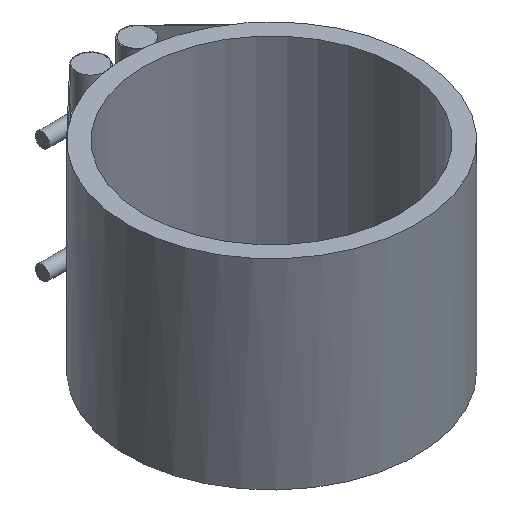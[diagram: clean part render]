
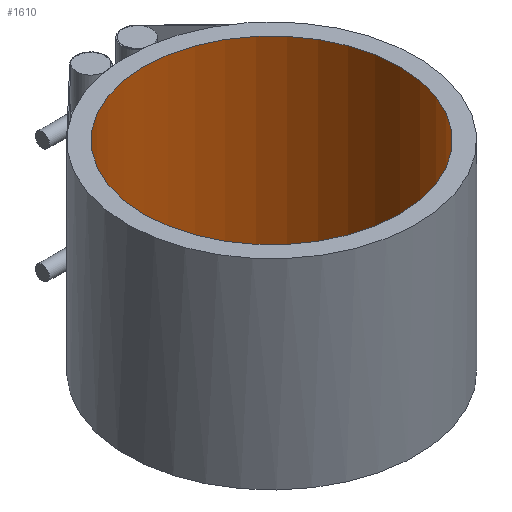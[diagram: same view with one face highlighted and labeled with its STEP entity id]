
A CAD part, isometric view. The second image highlights one B-rep face of the part: STEP entity #1610.
In plain terms, the highlighted cylindrical face has radius 90 mm (diameter 180 mm), a full revolution.
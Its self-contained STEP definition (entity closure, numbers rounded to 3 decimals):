
#364=CYLINDRICAL_SURFACE('',#1752,90.);
#418=FACE_BOUND('',#594,.T.);
#466=FACE_OUTER_BOUND('',#593,.T.);
#593=EDGE_LOOP('',(#1313));
#594=EDGE_LOOP('',(#1314));
#691=CIRCLE('',#1753,90.);
#692=CIRCLE('',#1754,90.);
#831=VERTEX_POINT('',#2856);
#832=VERTEX_POINT('',#2858);
#1007=EDGE_CURVE('',#831,#831,#691,.T.);
#1008=EDGE_CURVE('',#832,#832,#692,.T.);
#1313=ORIENTED_EDGE('',*,*,#1007,.F.);
#1314=ORIENTED_EDGE('',*,*,#1008,.F.);
#1610=ADVANCED_FACE('',(#466,#418),#364,.F.);
#1752=AXIS2_PLACEMENT_3D('',#2855,#2089,#2090);
#1753=AXIS2_PLACEMENT_3D('',#2857,#2091,#2092);
#1754=AXIS2_PLACEMENT_3D('',#2859,#2093,#2094);
#2089=DIRECTION('center_axis',(0.,0.,1.));
#2090=DIRECTION('ref_axis',(-1.,0.,0.));
#2091=DIRECTION('center_axis',(0.,0.,1.));
#2092=DIRECTION('ref_axis',(-1.,0.,0.));
#2093=DIRECTION('center_axis',(0.,0.,-1.));
#2094=DIRECTION('ref_axis',(-1.,0.,0.));
#2855=CARTESIAN_POINT('Origin',(0.,0.,0.));
#2856=CARTESIAN_POINT('',(90.,0.,-70.5));
#2857=CARTESIAN_POINT('Origin',(0.,0.,-70.5));
#2858=CARTESIAN_POINT('',(90.,0.,70.5));
#2859=CARTESIAN_POINT('Origin',(0.,0.,70.5));
